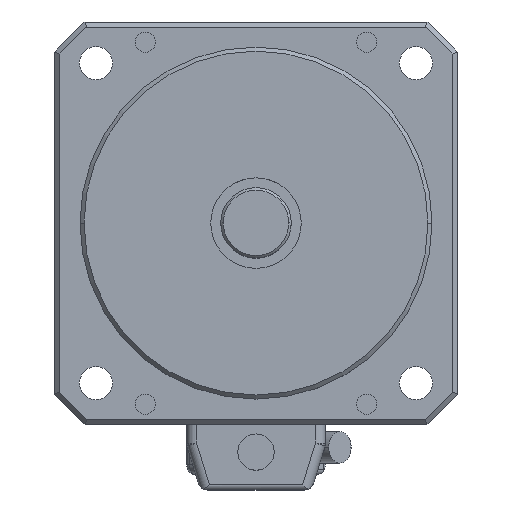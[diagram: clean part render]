
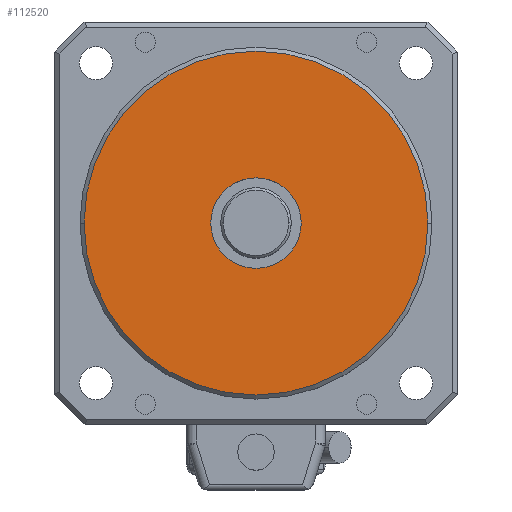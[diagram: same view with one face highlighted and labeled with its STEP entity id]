
A CAD part, top view. The second image highlights one B-rep face of the part: STEP entity #112520.
In plain terms, the highlighted planar face has unit normal (0, 0, 1) as drawn and (0, 0, -1) by its records, which use the part's own axes.
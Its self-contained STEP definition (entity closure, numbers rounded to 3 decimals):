
#97100=CARTESIAN_POINT('',(-34.2,0.,43.5));
#97110=VERTEX_POINT('',#97100);
#97290=CARTESIAN_POINT('',(34.2,0.,43.5));
#97300=VERTEX_POINT('',#97290);
#97330=CARTESIAN_POINT('',(0.,0.,43.5));
#97340=DIRECTION('',(0.,0.,-1.));
#97350=DIRECTION('',(-1.,0.,0.));
#97360=AXIS2_PLACEMENT_3D('',#97330,#97340,#97350);
#97370=CIRCLE('',#97360,34.2);
#97380=EDGE_CURVE('',#97300,#97110,#97370,.T.);
#100070=CARTESIAN_POINT('',(-9.,0.,43.5));
#100080=VERTEX_POINT('',#100070);
#100110=CARTESIAN_POINT('',(0.,0.,43.5));
#100120=DIRECTION('',(0.,0.,-1.));
#100130=DIRECTION('',(-1.,0.,0.));
#100140=AXIS2_PLACEMENT_3D('',#100110,#100120,#100130);
#100150=CIRCLE('',#100140,9.);
#100160=CARTESIAN_POINT('',(9.,0.,43.5));
#100170=VERTEX_POINT('',#100160);
#100180=EDGE_CURVE('',#100170,#100080,#100150,.T.);
#112370=CARTESIAN_POINT('',(-37.75,0.,43.5));
#112380=DIRECTION('',(0.,0.,-1.));
#112390=DIRECTION('',(-1.,0.,0.));
#112400=AXIS2_PLACEMENT_3D('',#112370,#112380,#112390);
#112410=PLANE('',#112400);
#112420=EDGE_CURVE('',#100080,#100170,#100150,.T.);
#112430=ORIENTED_EDGE('',*,*,#112420,.F.);
#112440=ORIENTED_EDGE('',*,*,#100180,.F.);
#112450=EDGE_LOOP('',(#112440,#112430));
#112460=FACE_BOUND('',#112450,.T.);
#112470=EDGE_CURVE('',#97110,#97300,#97370,.T.);
#112480=ORIENTED_EDGE('',*,*,#112470,.T.);
#112490=ORIENTED_EDGE('',*,*,#97380,.T.);
#112500=EDGE_LOOP('',(#112490,#112480));
#112510=FACE_OUTER_BOUND('',#112500,.T.);
#112520=ADVANCED_FACE('',(#112460,#112510),#112410,.T.);
